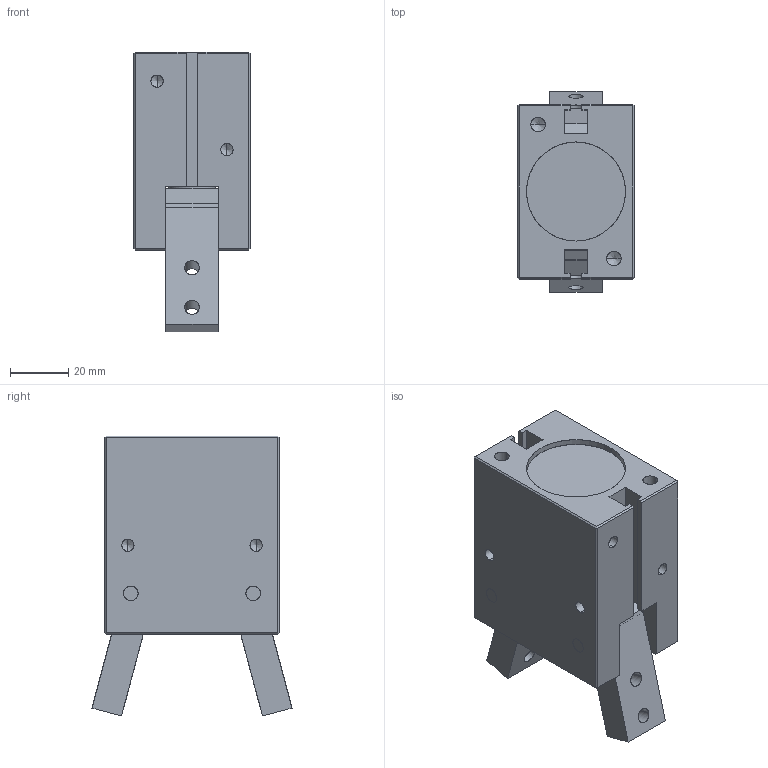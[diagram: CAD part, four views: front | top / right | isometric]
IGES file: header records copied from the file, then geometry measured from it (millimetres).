
Start section: SolidWorks IGES file using analytic representation for surfaces
Global section: file name: C:\Documents and Settings\SGA\Bureau\GDS.32\GDS.32-OPEN.IGS; native system: SolidWorks 2010; preprocessor: SolidWorks 2010; author: SGA; date: 111020.141227; units: millimetre
Bounding box: 40 x 68.68 x 96.1 mm (x, y, z)
Surface area: 38605.4 mm2 (no closed solid volume)
Topology: 0 solids, 0 shells, 596 faces, 6671 edges, 6655 vertices
Faces by surface type: bspline 532, revolution 64
